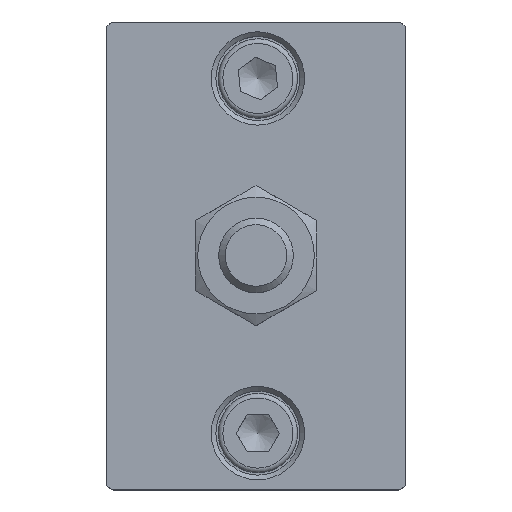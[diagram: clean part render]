
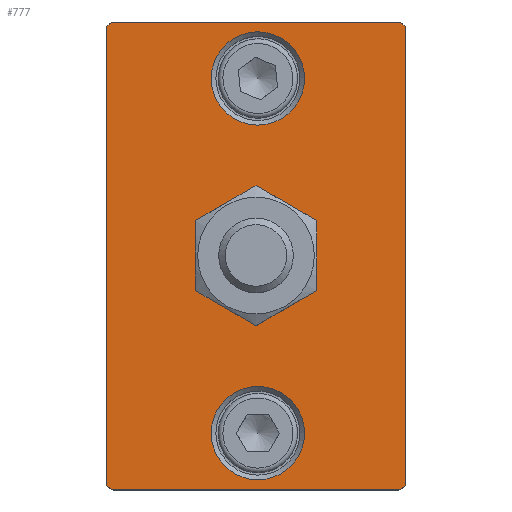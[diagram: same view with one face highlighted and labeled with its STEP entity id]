
A CAD part, top view. The second image highlights one B-rep face of the part: STEP entity #777.
In plain terms, the highlighted planar face has unit normal (0, 0, 1).
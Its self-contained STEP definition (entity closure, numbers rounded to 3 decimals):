
#612=CARTESIAN_POINT('',(-11.983,24.55,14.));
#613=VERTEX_POINT('',#612);
#614=CARTESIAN_POINT('',(-11.483,25.05,14.));
#615=VERTEX_POINT('',#614);
#616=CARTESIAN_POINT('',(-11.983,24.55,14.));
#617=DIRECTION('',(0.707,0.707,0.0));
#618=VECTOR('',#617,0.707);
#619=LINE('',#616,#618);
#620=EDGE_CURVE('',#613,#615,#619,.T.);
#655=CARTESIAN_POINT('',(4.017,0.,14.));
#656=DIRECTION('',(0.0,0.0,1.0));
#657=DIRECTION('',(1.0,0.0,0.0));
#658=AXIS2_PLACEMENT_3D('',#655,#656,#657);
#659=PLANE('',#658);
#660=ORIENTED_EDGE('',*,*,#620,.F.);
#661=CARTESIAN_POINT('',(-11.983,-24.55,14.));
#662=VERTEX_POINT('',#661);
#663=CARTESIAN_POINT('',(-11.983,-24.55,14.));
#664=DIRECTION('',(0.0,1.0,0.0));
#665=VECTOR('',#664,49.1);
#666=LINE('',#663,#665);
#667=EDGE_CURVE('',#662,#613,#666,.T.);
#668=ORIENTED_EDGE('',*,*,#667,.F.);
#669=CARTESIAN_POINT('',(-11.483,-25.05,14.));
#670=VERTEX_POINT('',#669);
#671=CARTESIAN_POINT('',(-11.483,-25.05,14.));
#672=DIRECTION('',(-0.707,0.707,0.0));
#673=VECTOR('',#672,0.707);
#674=LINE('',#671,#673);
#675=EDGE_CURVE('',#670,#662,#674,.T.);
#676=ORIENTED_EDGE('',*,*,#675,.F.);
#677=CARTESIAN_POINT('',(19.517,-25.05,14.));
#678=VERTEX_POINT('',#677);
#679=CARTESIAN_POINT('',(19.517,-25.05,14.));
#680=DIRECTION('',(-1.0,0.0,0.0));
#681=VECTOR('',#680,31.);
#682=LINE('',#679,#681);
#683=EDGE_CURVE('',#678,#670,#682,.T.);
#684=ORIENTED_EDGE('',*,*,#683,.F.);
#685=CARTESIAN_POINT('',(20.017,-24.55,14.));
#686=VERTEX_POINT('',#685);
#687=CARTESIAN_POINT('',(20.017,-24.55,14.));
#688=DIRECTION('',(-0.707,-0.707,0.0));
#689=VECTOR('',#688,0.707);
#690=LINE('',#687,#689);
#691=EDGE_CURVE('',#686,#678,#690,.T.);
#692=ORIENTED_EDGE('',*,*,#691,.F.);
#693=CARTESIAN_POINT('',(20.017,24.55,14.));
#694=VERTEX_POINT('',#693);
#695=CARTESIAN_POINT('',(20.017,24.55,14.));
#696=DIRECTION('',(0.0,-1.0,0.0));
#697=VECTOR('',#696,49.1);
#698=LINE('',#695,#697);
#699=EDGE_CURVE('',#694,#686,#698,.T.);
#700=ORIENTED_EDGE('',*,*,#699,.F.);
#701=CARTESIAN_POINT('',(19.517,25.05,14.));
#702=VERTEX_POINT('',#701);
#703=CARTESIAN_POINT('',(19.517,25.05,14.));
#704=DIRECTION('',(0.707,-0.707,0.0));
#705=VECTOR('',#704,0.707);
#706=LINE('',#703,#705);
#707=EDGE_CURVE('',#702,#694,#706,.T.);
#708=ORIENTED_EDGE('',*,*,#707,.F.);
#709=CARTESIAN_POINT('',(-11.483,25.05,14.));
#710=DIRECTION('',(1.0,0.0,0.0));
#711=VECTOR('',#710,31.);
#712=LINE('',#709,#711);
#713=EDGE_CURVE('',#615,#702,#712,.T.);
#714=ORIENTED_EDGE('',*,*,#713,.F.);
#715=EDGE_LOOP('',(#660,#668,#676,#684,#692,#700,#708,#714));
#716=FACE_OUTER_BOUND('',#715,.T.);
#717=CARTESIAN_POINT('',(9.217,19.0,14.));
#718=VERTEX_POINT('',#717);
#719=CARTESIAN_POINT('',(4.217,19.0,14.));
#720=DIRECTION('',(0.0,0.0,1.0));
#721=DIRECTION('',(-1.0,0.0,0.0));
#722=AXIS2_PLACEMENT_3D('',#719,#720,#721);
#723=CIRCLE('',#722,5.0);
#724=EDGE_CURVE('',#718,#718,#723,.T.);
#725=ORIENTED_EDGE('',*,*,#724,.F.);
#726=EDGE_LOOP('',(#725));
#727=FACE_BOUND('',#726,.T.);
#728=CARTESIAN_POINT('',(4.017,5.0,14.));
#729=VERTEX_POINT('',#728);
#730=CARTESIAN_POINT('',(9.017,0.,14.));
#731=VERTEX_POINT('',#730);
#732=CARTESIAN_POINT('',(4.017,0.0,14.));
#733=DIRECTION('',(0.0,0.0,-1.0));
#734=DIRECTION('',(0.0,1.0,0.0));
#735=AXIS2_PLACEMENT_3D('',#732,#733,#734);
#736=CIRCLE('',#735,5.);
#737=EDGE_CURVE('',#729,#731,#736,.T.);
#738=ORIENTED_EDGE('',*,*,#737,.T.);
#739=CARTESIAN_POINT('',(4.017,-5.,14.));
#740=VERTEX_POINT('',#739);
#741=CARTESIAN_POINT('',(4.017,0.0,14.));
#742=DIRECTION('',(0.0,0.0,-1.0));
#743=DIRECTION('',(0.0,1.0,0.0));
#744=AXIS2_PLACEMENT_3D('',#741,#742,#743);
#745=CIRCLE('',#744,5.);
#746=EDGE_CURVE('',#731,#740,#745,.T.);
#747=ORIENTED_EDGE('',*,*,#746,.T.);
#748=CARTESIAN_POINT('',(-0.983,0.,14.));
#749=VERTEX_POINT('',#748);
#750=CARTESIAN_POINT('',(4.017,0.0,14.));
#751=DIRECTION('',(0.0,0.0,-1.0));
#752=DIRECTION('',(0.0,1.0,0.0));
#753=AXIS2_PLACEMENT_3D('',#750,#751,#752);
#754=CIRCLE('',#753,5.);
#755=EDGE_CURVE('',#740,#749,#754,.T.);
#756=ORIENTED_EDGE('',*,*,#755,.T.);
#757=CARTESIAN_POINT('',(4.017,0.0,14.));
#758=DIRECTION('',(0.0,0.0,-1.0));
#759=DIRECTION('',(0.0,1.0,0.0));
#760=AXIS2_PLACEMENT_3D('',#757,#758,#759);
#761=CIRCLE('',#760,5.);
#762=EDGE_CURVE('',#749,#729,#761,.T.);
#763=ORIENTED_EDGE('',*,*,#762,.T.);
#764=EDGE_LOOP('',(#738,#747,#756,#763));
#765=FACE_BOUND('',#764,.T.);
#766=CARTESIAN_POINT('',(9.217,-19.0,14.));
#767=VERTEX_POINT('',#766);
#768=CARTESIAN_POINT('',(4.217,-19.0,14.));
#769=DIRECTION('',(0.0,0.0,1.0));
#770=DIRECTION('',(-1.0,0.0,0.0));
#771=AXIS2_PLACEMENT_3D('',#768,#769,#770);
#772=CIRCLE('',#771,5.0);
#773=EDGE_CURVE('',#767,#767,#772,.T.);
#774=ORIENTED_EDGE('',*,*,#773,.F.);
#775=EDGE_LOOP('',(#774));
#776=FACE_BOUND('',#775,.T.);
#777=ADVANCED_FACE('',(#716,#727,#765,#776),#659,.T.);
